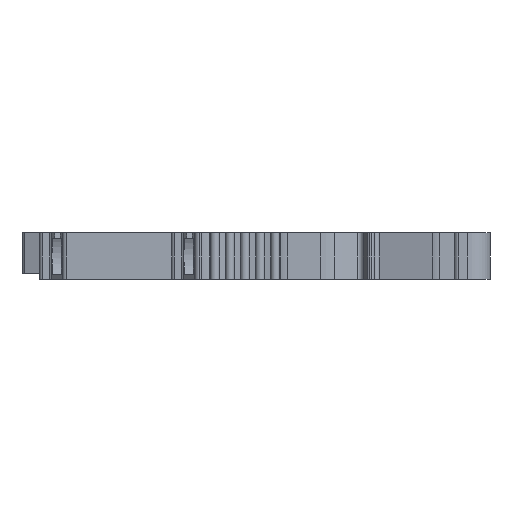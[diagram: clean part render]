
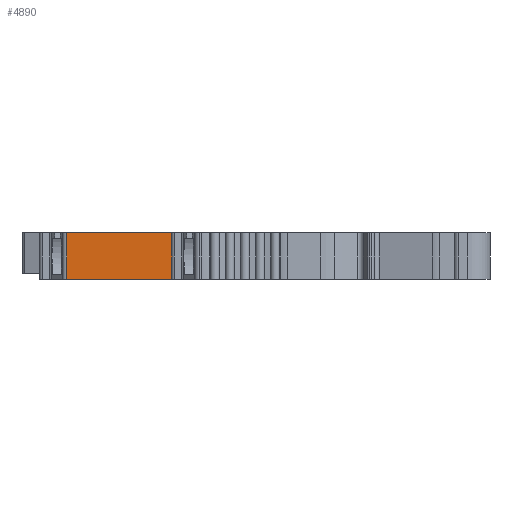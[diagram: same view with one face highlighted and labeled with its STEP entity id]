
A CAD part, left-side view. The second image highlights one B-rep face of the part: STEP entity #4890.
In plain terms, the highlighted planar face has unit normal (-0.999, 0.035, 0).
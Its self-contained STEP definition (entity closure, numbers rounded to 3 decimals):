
#4500=CARTESIAN_POINT('',(-19.4,40.295,
-7.4));
#4510=DIRECTION('',(0.999,-0.035,
0.));
#4520=DIRECTION('',(0.,0.,-1.));
#4530=AXIS2_PLACEMENT_3D('',#4500,#4510,#4520);
#4540=PLANE('',#4530);
#4550=CARTESIAN_POINT('',(-20.807,0.,
0.));
#4560=DIRECTION('',(0.035,0.999,0.));
#4570=VECTOR('',#4560,1.);
#4580=LINE('',#4550,#4570);
#4590=CARTESIAN_POINT('',(-19.7,31.7,
0.));
#4600=VERTEX_POINT('',#4590);
#4610=CARTESIAN_POINT('',(-19.288,43.495,
0.));
#4620=VERTEX_POINT('',#4610);
#4630=EDGE_CURVE('',#4600,#4620,#4580,.T.);
#4640=ORIENTED_EDGE('',*,*,#4630,.T.);
#4650=CARTESIAN_POINT('',(-19.7,31.7,0.));
#4660=DIRECTION('',(0.,0.,1.));
#4670=VECTOR('',#4660,1.);
#4680=LINE('',#4650,#4670);
#4690=CARTESIAN_POINT('',(-19.7,31.7,-5.2));
#4700=VERTEX_POINT('',#4690);
#4710=EDGE_CURVE('',#4700,#4600,#4680,.T.);
#4720=ORIENTED_EDGE('',*,*,#4710,.T.);
#4730=CARTESIAN_POINT('',(-20.807,0.,-5.2));
#4740=DIRECTION('',(-0.035,-0.999,
0.));
#4750=VECTOR('',#4740,1.);
#4760=LINE('',#4730,#4750);
#4770=CARTESIAN_POINT('',(-19.288,43.495,-5.2));
#4780=VERTEX_POINT('',#4770);
#4790=EDGE_CURVE('',#4780,#4700,#4760,.T.);
#4800=ORIENTED_EDGE('',*,*,#4790,.T.);
#4810=CARTESIAN_POINT('',(-19.288,43.495,
0.));
#4820=DIRECTION('',(0.,0.,-1.));
#4830=VECTOR('',#4820,1.);
#4840=LINE('',#4810,#4830);
#4850=EDGE_CURVE('',#4620,#4780,#4840,.T.);
#4860=ORIENTED_EDGE('',*,*,#4850,.T.);
#4870=EDGE_LOOP('',(#4860,#4800,#4720,#4640));
#4880=FACE_OUTER_BOUND('',#4870,.T.);
#4890=ADVANCED_FACE('',(#4880),#4540,.F.);
